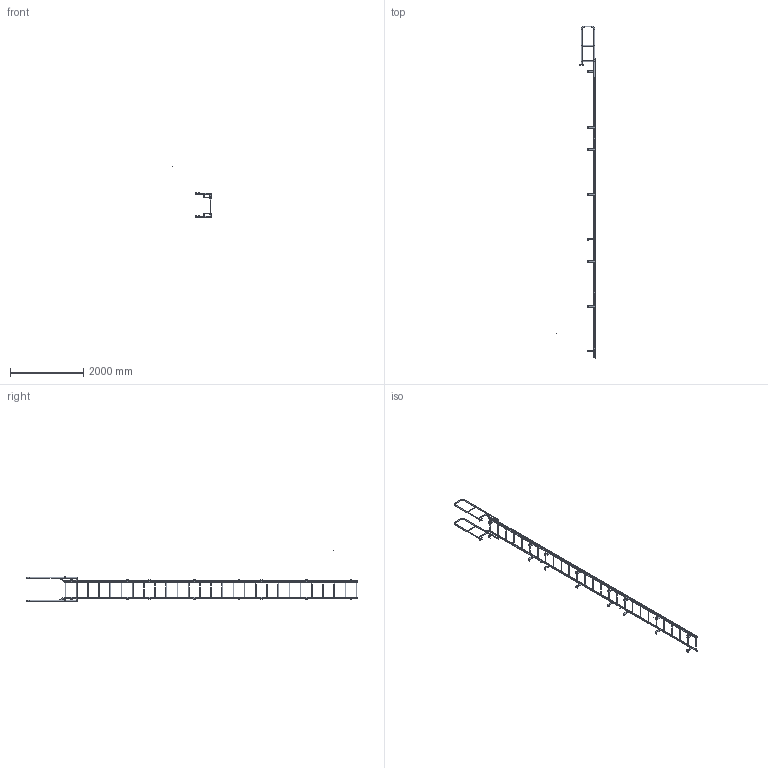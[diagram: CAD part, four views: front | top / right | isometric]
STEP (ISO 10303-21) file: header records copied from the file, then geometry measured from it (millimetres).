
FILE_DESCRIPTION(/* description */ (''),/* implementation_level */ '2;1');
FILE_NAME(/* name */ 'P:\MIKEL & KAREN\D0570355 F27W SIMPLIFIED PART.stp',/* time_stamp */ '2018-07-03T08:37:36-04:00',/* author */ ('stephanie'),/* organization */ (''),/* preprocessor_version */ 'ST-DEVELOPER v16.1',/* originating_system */ 'Autodesk Inventor 2016',/* authorisation */ '');
FILE_SCHEMA (('AUTOMOTIVE_DESIGN { 1 0 10303 214 3 1 1 }'));
Length unit declared in the file: centimetre
Products named in the file (1): D0570355 F27W SIMPLIFIED PART
Bounding box: 1052.08 x 9039.23 x 1406.75 mm (x, y, z)
Volume: 15196217.7 mm3; surface area: 5334223.5 mm2
Topology: 36 solids, 36 shells, 572 faces, 1520 edges, 1000 vertices
Faces by surface type: plane 326, cylinder 238, torus 8
Full cylindrical faces by diameter (mm): 0.254 x1, 10.319 x4, 14.287 x20, 19.05 x27, 22.098 x10, 22.225 x54, 25.4 x10
Entity records: 17762 total; most frequent: CARTESIAN_POINT 3203, DIRECTION 2948, ORIENTED_EDGE 2624, EDGE_CURVE 1308, AXIS2_PLACEMENT_3D 1083, VERTEX_POINT 922, EDGE_LOOP 868, LINE 782
